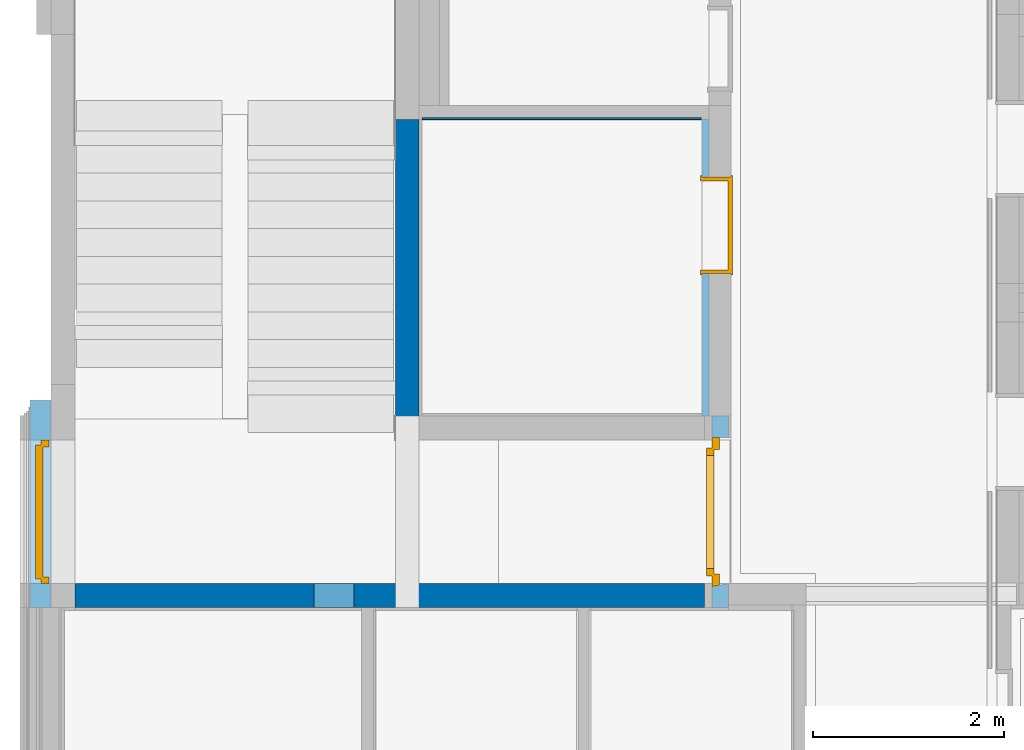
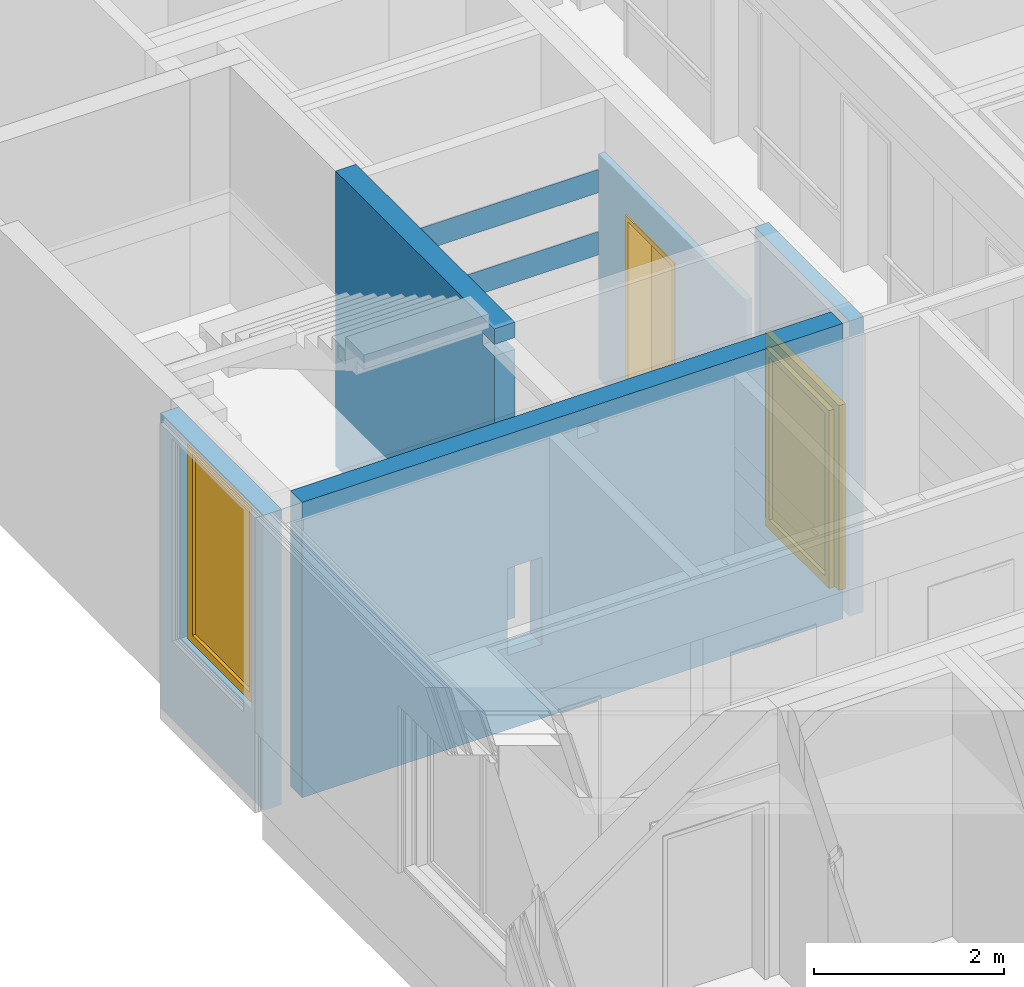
# One storey, part 75 of 207: 4 walls, 3 doors, 5 openings, plus 3 elements that do not belong to this part.
"""IFC4 building model written with IfcOpenShell, lengths in metres."""

from ifc_helpers import new_model, entity, si_unit, converted_unit, derived_unit, frame, frame_2d, origin, origin_with_axes, place, context, subcontext, project, spatial, polyline, rectangle, outline, extrude, closed_shell, open_shell, faceted_brep, surface_model, source, transform, mapped, material, type_object, element, fill, save


model = new_model("IFC4")

# Units and contexts
model_context = context("Model", 3, precision=1e-05, world=origin())
body_context = subcontext(model_context, "Body", "Model", "MODEL_VIEW")
ifc_project = project(units=[si_unit("LENGTHUNIT", "METRE"), si_unit("AREAUNIT", "SQUARE_METRE"), si_unit("VOLUMEUNIT", "CUBIC_METRE"), si_unit("MASSUNIT", "GRAM", prefix="KILO"), converted_unit("PLANEANGLEUNIT", "DEGREE", entity("IfcPlaneAngleMeasure", 0.0174532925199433), si_unit("PLANEANGLEUNIT", "RADIAN"), dimensions=[0, 0, 0, 0, 0, 0, 0]), derived_unit("THERMALTRANSMITTANCEUNIT", [(si_unit("POWERUNIT", "WATT"), 1), (si_unit("THERMODYNAMICTEMPERATUREUNIT", "KELVIN"), -1), (si_unit("LENGTHUNIT", "METRE"), -2)]), derived_unit("VOLUMETRICFLOWRATEUNIT", [(si_unit("LENGTHUNIT", "METRE"), 3), (converted_unit("TIMEUNIT", "hour", entity("IfcTimeMeasure", 3600.0), si_unit("TIMEUNIT", "SECOND"), dimensions=[0, 0, 1, 0, 0, 0, 0]), -1), (si_unit("LENGTHUNIT", "METRE"), -1)])], contexts=[model_context])

# Site, building, storey
site_placement = place(None, origin())
site = spatial("IfcSite", under=ifc_project, at=site_placement, Name="Psychiatrie Neubau Wunstorf", CompositionType="ELEMENT")
building_placement = place(site_placement, origin())
building = spatial("IfcBuilding", under=site, at=building_placement, Name="Neubau H2 Stationsgebäude", CompositionType="ELEMENT")
storey_placement = place(building_placement, frame((0.0, 0.0, -0.2)))
storey = spatial("IfcBuildingStorey", under=building, at=storey_placement, Name="H2 Ebene 0", CompositionType="ELEMENT", Elevation=-0.2)

# Wall, opening, door
ifc_material_1 = material(Name="WA-DL")
wall_1_placement = place(storey_placement, frame((0.0299999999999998, 9.62499989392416, 0.0), z_axis=(0.0, 0.0, 1.0), x_axis=(0.0, 1.0, 0.0)))
wall_1 = element("IfcWall", 1, at=wall_1_placement, inside=storey, material=ifc_material_1, context=body_context, shape_type="SweptSolid", body=[
    extrude(rectangle(XDim=2.17124634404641, YDim=0.22, at=frame_2d((1.0856231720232, 0.11), x_axis=(1.0, 0.0))), origin_with_axes(), (0.0, 0.0, 1.0), 3.8),
])
opening_1_placement = place(wall_1_placement, frame((1.75, 0.22, 1.155), z_axis=(0.0, -1.0, 0.0), x_axis=(0.0, 0.0, 1.0)))
opening_1 = element("IfcOpeningElement", 2, at=opening_1_placement, cuts=wall_1, Name="Türöffnung", ObjectType="Opening", context=body_context, shape_type="SweptSolid", body=[
    extrude(outline(polyline([(2.6, 1.5000257), (2.6, 0.0), (0.0, 0.0), (0.0, 1.5000257), (2.6, 1.5000257)])), origin_with_axes(), (0.0, 0.0, 1.0), 0.22),
])
ifc_material_2 = material(Name="TA-1F-AG-D")
door_type_1 = type_object("IfcDoorType", Name="SMT", OperationType="SINGLE_SWING_RIGHT", ParameterTakesPrecedence=False, PredefinedType="DOOR")
shared_shape_1 = source(origin_with_axes(), body_context, "Body", "SurfaceModel", [
    surface_model("IfcShellBasedSurfaceModel", [(0.0, 0.0799999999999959, 2.6), (0.0, 0.0799999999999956, 0.01), (0.0699999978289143, 0.0799999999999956, 0.01), (0.0699999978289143, 0.0799999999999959, 2.6), (0.0, 0.0, 0.01), (0.0, 0.0, 2.6), (0.0699999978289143, 0.0, 2.6), (0.0699999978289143, 0.0, 0.01)], [closed_shell([[[0, 1, 2, 3]], [[4, 5, 6, 7]], [[1, 0, 5, 4]], [[2, 1, 4, 7]], [[3, 2, 7, 6]], [[0, 3, 6, 5]]], orient=[[False], [False], [False], [False], [False], [False]])]),
    surface_model("IfcShellBasedSurfaceModel", [(1.43002570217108, 0.0799999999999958, 2.6), (1.43002570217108, 0.0799999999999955, 0.01), (1.5000257, 0.0799999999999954, 0.01), (1.5000257, 0.0799999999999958, 2.6), (1.43002570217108, 0.0, 0.01), (1.43002570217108, 0.0, 2.6), (1.5000257, 0.0, 2.6), (1.5000257, 0.0, 0.01)], [closed_shell([[[0, 1, 2, 3]], [[4, 5, 6, 7]], [[1, 0, 5, 4]], [[2, 1, 4, 7]], [[3, 2, 7, 6]], [[0, 3, 6, 5]]], orient=[[False], [False], [False], [False], [False], [False]])]),
    surface_model("IfcShellBasedSurfaceModel", [(0.0699999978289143, 0.0799999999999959, 2.6), (0.0699999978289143, 0.0799999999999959, 2.53), (1.43002570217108, 0.0799999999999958, 2.53), (1.43002570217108, 0.0799999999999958, 2.6), (0.0699999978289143, 0.0, 2.53), (0.0699999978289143, 0.0, 2.6), (1.43002570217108, 0.0, 2.6), (1.43002570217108, 0.0, 2.53)], [closed_shell([[[0, 1, 2, 3]], [[4, 5, 6, 7]], [[1, 0, 5, 4]], [[2, 1, 4, 7]], [[3, 2, 7, 6]], [[0, 3, 6, 5]]], orient=[[False], [False], [False], [False], [False], [False]])]),
    surface_model("IfcShellBasedSurfaceModel", [(0.0499999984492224, 0.14, 2.55), (0.0499999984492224, 0.14, -0.01), (0.149999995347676, 0.14, -0.01), (0.149999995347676, 0.14, 2.55), (0.0499999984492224, 0.0599999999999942, -0.01), (0.0499999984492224, 0.0599999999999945, 2.55), (0.149999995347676, 0.0599999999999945, 2.55), (0.149999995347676, 0.0599999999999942, -0.01)], [closed_shell([[[0, 1, 2, 3]], [[4, 5, 6, 7]], [[1, 0, 5, 4]], [[2, 1, 4, 7]], [[3, 2, 7, 6]], [[0, 3, 6, 5]]], orient=[[False], [False], [False], [False], [False], [False]])]),
    surface_model("IfcShellBasedSurfaceModel", [(1.35002570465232, 0.14, 2.55), (1.35002570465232, 0.14, -0.01), (1.45002570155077, 0.14, -0.01), (1.45002570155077, 0.14, 2.55), (1.35002570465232, 0.059999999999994, -0.01), (1.35002570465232, 0.0599999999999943, 2.55), (1.45002570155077, 0.0599999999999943, 2.55), (1.45002570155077, 0.059999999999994, -0.01)], [closed_shell([[[0, 1, 2, 3]], [[4, 5, 6, 7]], [[1, 0, 5, 4]], [[2, 1, 4, 7]], [[3, 2, 7, 6]], [[0, 3, 6, 5]]], orient=[[False], [False], [False], [False], [False], [False]])]),
    surface_model("IfcShellBasedSurfaceModel", [(0.149999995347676, 0.14, 0.11), (0.149999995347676, 0.14, -0.01), (1.35002570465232, 0.14, -0.01), (1.35002570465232, 0.14, 0.11), (0.149999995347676, 0.0599999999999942, -0.01), (0.149999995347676, 0.0599999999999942, 0.11), (1.35002570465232, 0.0599999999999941, 0.11), (1.35002570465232, 0.059999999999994, -0.01)], [closed_shell([[[0, 1, 2, 3]], [[4, 5, 6, 7]], [[1, 0, 5, 4]], [[2, 1, 4, 7]], [[3, 2, 7, 6]], [[0, 3, 6, 5]]], orient=[[False], [False], [False], [False], [False], [False]])]),
    surface_model("IfcShellBasedSurfaceModel", [(0.149999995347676, 0.14, 2.55), (0.149999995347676, 0.14, 2.45), (1.35002570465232, 0.14, 2.45), (1.35002570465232, 0.14, 2.55), (0.149999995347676, 0.0599999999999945, 2.45), (0.149999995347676, 0.0599999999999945, 2.55), (1.35002570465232, 0.0599999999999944, 2.55), (1.35002570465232, 0.0599999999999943, 2.45)], [closed_shell([[[0, 1, 2, 3]], [[4, 5, 6, 7]], [[1, 0, 5, 4]], [[2, 1, 4, 7]], [[3, 2, 7, 6]], [[0, 3, 6, 5]]], orient=[[False], [False], [False], [False], [False], [False]])]),
    surface_model("IfcShellBasedSurfaceModel", [(0.149999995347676, 0.0999999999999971, 0.11), (1.35002570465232, 0.0999999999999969, 0.11), (1.35002570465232, 0.0999999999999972, 2.45), (0.149999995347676, 0.0999999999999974, 2.45)], [open_shell([[[0, 1, 2, 3]]], orient=[[False]])]),
])
door_1_placement = place(opening_1_placement, frame((0.0, 1.5000257, 0.198), z_axis=(1.0, 0.0, 0.0), x_axis=(0.0, -1.0, 0.0)))
door_1 = element("IfcDoor", 3, at=door_1_placement, inside=storey, type_object=door_type_1, material=ifc_material_2, Name="SMT", OverallHeight=2.6, OverallWidth=1.50003, context=body_context, shape_type="MappedRepresentation", body=[
    mapped(shared_shape_1, transform((0.0, 0.0, 0.0), x_axis=(1.0, 0.0, 0.0), y_axis=(0.0, 1.0, 0.0), z_axis=(0.0, 0.0, 1.0), scale=1.0)),
])
fill(opening_1, door_1)

# Walls
for number, where, name in (
    (4, (3.90999963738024, 14.7250132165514, 2.4), "WV 1.1"),
    (5, (3.90999963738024, 14.7250132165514, 1.6), "WV 1.1"),
):
    element("IfcWall", number, at=place(storey_placement, frame(where)), inside=storey, Name=name, context=body_context, shape_type="Brep", body=[
        faceted_brep([(0.0, 0.018, 0.0), (0.0, 0.0, 0.0), (2.92, 0.0, 0.0), (2.92, 0.018, 0.0), (0.0, 0.0, 0.3), (0.0, 0.018, 0.3), (2.92, 0.018, 0.3), (2.92, 0.0, 0.3)], [[[0, 1, 2, 3]], [[4, 5, 6, 7]], [[1, 0, 5, 4]], [[2, 1, 4, 7]], [[3, 2, 7, 6]], [[0, 3, 6, 5]]], orient=[[False], [False], [False], [False], [False], [False]]),
    ])

# Wall, openings, door
ifc_material_3 = material(Name="WI-STB")
wall_2_placement = place(storey_placement, frame((6.94099914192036, 11.6249877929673, 0.0), z_axis=(0.0, 0.0, 1.0), x_axis=(0.0, -1.0, 0.0)))
wall_2 = element("IfcWall", 6, at=wall_2_placement, inside=storey, material=ifc_material_3, context=body_context, shape_type="SweptSolid", body=[
    extrude(outline(polyline([(-1.99998789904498, 0.0), (0.0, 0.0), (0.0, 0.16999981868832), (-0.250000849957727, 0.170010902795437), (-1.99998789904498, 0.169999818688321), (-1.99998789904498, 0.0)])), frame((1.99998789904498, 0.0, 0.0), z_axis=(0.0, 0.0, 1.0), x_axis=(1.0, 0.0, 0.0)), (0.0, 0.0, 1.0), 3.8),
])
opening_2_placement = place(wall_2_placement, frame((1.74998704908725, 0.200010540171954, 0.0), z_axis=(7.2445759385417e-06, -0.999999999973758, 0.0), x_axis=(0.0, 0.0, 1.0)))
element("IfcOpeningElement", 7, at=opening_2_placement, cuts=wall_2, Name="Türöffnung", ObjectType="Opening", context=body_context, shape_type="SweptSolid", body=[
    extrude(outline(polyline([(2.58, 1.5299870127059), (2.58, 0.0), (0.0, 0.0), (0.0, 1.5299870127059), (2.58, 1.5299870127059)])), origin_with_axes(), (0.0, 0.0, 1.0), 0.0299996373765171),
])
opening_3_placement = place(wall_2_placement, frame((1.74998704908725, 0.170010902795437, 0.0), z_axis=(0.0, 0.0, 1.0), x_axis=(-0.999999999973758, -7.24457594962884e-06, 0.0)))
opening_3 = element("IfcOpeningElement", 8, at=opening_3_placement, cuts=wall_2, Name="Türöffnung", ObjectType="Opening", context=body_context, shape_type="SweptSolid", body=[
    extrude(outline(polyline([(0.0, 0.0), (1.5299870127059, 0.0), (1.5299882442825, 0.16999981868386), (-0.0300117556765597, 0.170011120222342), (0.0, 0.0)])), origin_with_axes(), (0.0, 0.0, 1.0), 2.58),
])
ifc_material_4 = material(Name="TI-1F-AG-D-O")
door_type_2 = type_object("IfcDoorType", Name="SMT", OperationType="SINGLE_SWING_RIGHT", ParameterTakesPrecedence=False, PredefinedType="DOOR")
shared_shape_2 = source(origin_with_axes(), body_context, "Body", "SurfaceModel", [
    surface_model("IfcShellBasedSurfaceModel", [(1.52999315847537, 0.0799894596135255, 2.58), (1.47999315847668, 0.0799898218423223, 2.58), (1.47999315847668, 0.0799898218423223, 0.2), (1.52999315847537, 0.0799894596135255, 0.2), (1.52999257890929, -1.0540384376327e-05, 0.2), (1.47999257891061, -1.01781555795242e-05, 0.2), (1.47999257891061, -1.01781555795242e-05, 2.58), (1.52999257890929, -1.0540384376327e-05, 2.58)], [closed_shell([[[0, 1, 2, 3]], [[4, 5, 6, 7]], [[3, 4, 7, 0]], [[2, 5, 4, 3]], [[1, 6, 5, 2]], [[0, 7, 6, 1]]], orient=[[False], [False], [False], [False], [False], [False]])]),
    surface_model("IfcShellBasedSurfaceModel", [(0.019993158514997, 0.08000039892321, 2.58), (-0.0300068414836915, 0.0800007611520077, 2.58), (-0.0300068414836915, 0.0800007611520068, 0.2), (0.019993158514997, 0.0800003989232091, 0.2), (0.0199925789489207, 3.98925307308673e-07, 0.2), (-0.0300074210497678, 7.61154105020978e-07, 0.2), (-0.0300074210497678, 7.61154105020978e-07, 2.58), (0.0199925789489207, 3.98925307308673e-07, 2.58)], [closed_shell([[[0, 1, 2, 3]], [[4, 5, 6, 7]], [[3, 4, 7, 0]], [[2, 5, 4, 3]], [[1, 6, 5, 2]], [[0, 7, 6, 1]]], orient=[[False], [False], [False], [False], [False], [False]])]),
    surface_model("IfcShellBasedSurfaceModel", [(1.47999315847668, 0.0799898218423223, 2.58), (0.019993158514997, 0.08000039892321, 2.58), (0.019993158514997, 0.08000039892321, 2.53), (1.47999315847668, 0.0799898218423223, 2.53), (1.47999257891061, -1.01781555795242e-05, 2.53), (0.0199925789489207, 3.98925307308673e-07, 2.53), (0.0199925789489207, 3.98925307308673e-07, 2.58), (1.47999257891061, -1.01781555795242e-05, 2.58)], [closed_shell([[[0, 1, 2, 3]], [[4, 5, 6, 7]], [[3, 4, 7, 0]], [[2, 5, 4, 3]], [[1, 6, 5, 2]], [[0, 7, 6, 1]]], orient=[[False], [False], [False], [False], [False], [False]])]),
    surface_model("IfcShellBasedSurfaceModel", [(1.47999315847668, 0.0799898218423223, 2.53), (1.39999315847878, 0.0799904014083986, 2.53), (1.39999315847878, 0.0799904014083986, 0.2), (1.47999315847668, 0.0799898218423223, 0.2), (1.47999257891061, -1.01781555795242e-05, 0.2), (1.39999257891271, -9.59858950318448e-06, 0.2), (1.39999257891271, -9.59858950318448e-06, 2.53), (1.47999257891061, -1.01781555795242e-05, 2.53)], [closed_shell([[[0, 1, 2, 3]], [[4, 5, 6, 7]], [[3, 4, 7, 0]], [[2, 5, 4, 3]], [[1, 6, 5, 2]], [[0, 7, 6, 1]]], orient=[[False], [False], [False], [False], [False], [False]])]),
    surface_model("IfcShellBasedSurfaceModel", [(0.0999931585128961, 0.0799998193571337, 2.53), (0.019993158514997, 0.08000039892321, 2.53), (0.019993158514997, 0.0800003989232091, 0.2), (0.0999931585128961, 0.0799998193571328, 0.2), (0.0999925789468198, -1.80640769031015e-07, 0.2), (0.0199925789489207, 3.98925307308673e-07, 0.2), (0.0199925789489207, 3.98925307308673e-07, 2.53), (0.0999925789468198, -1.80640769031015e-07, 2.53)], [closed_shell([[[0, 1, 2, 3]], [[4, 5, 6, 7]], [[3, 4, 7, 0]], [[2, 5, 4, 3]], [[1, 6, 5, 2]], [[0, 7, 6, 1]]], orient=[[False], [False], [False], [False], [False], [False]])]),
    surface_model("IfcShellBasedSurfaceModel", [(1.39999315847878, 0.0799904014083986, 2.53), (0.0999931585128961, 0.0799998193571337, 2.53), (0.0999931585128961, 0.0799998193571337, 2.45), (1.39999315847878, 0.0799904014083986, 2.45), (1.39999257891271, -9.59858950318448e-06, 2.45), (0.0999925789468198, -1.80640769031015e-07, 2.45), (0.0999925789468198, -1.80640769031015e-07, 2.53), (1.39999257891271, -9.59858950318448e-06, 2.53)], [closed_shell([[[0, 1, 2, 3]], [[4, 5, 6, 7]], [[3, 4, 7, 0]], [[2, 5, 4, 3]], [[1, 6, 5, 2]], [[0, 7, 6, 1]]], orient=[[False], [False], [False], [False], [False], [False]])]),
    surface_model("IfcShellBasedSurfaceModel", [(1.41999359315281, 0.139990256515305, 2.47), (1.33999359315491, 0.139990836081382, 2.47), (1.33999359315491, 0.139990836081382, 0.18), (1.41999359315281, 0.139990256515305, 0.18), (1.41999301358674, 0.0599902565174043, 0.18), (1.33999301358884, 0.0599908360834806, 0.18), (1.33999301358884, 0.0599908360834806, 2.47), (1.41999301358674, 0.0599902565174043, 2.47)], [closed_shell([[[0, 1, 2, 3]], [[4, 5, 6, 7]], [[3, 4, 7, 0]], [[2, 5, 4, 3]], [[1, 6, 5, 2]], [[0, 7, 6, 1]]], orient=[[False], [False], [False], [False], [False], [False]])]),
    surface_model("IfcShellBasedSurfaceModel", [(0.15999359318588, 0.139999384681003, 2.47), (0.0799935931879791, 0.139999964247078, 2.47), (0.0799935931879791, 0.139999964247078, 0.18), (0.15999359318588, 0.139999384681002, 0.18), (0.159993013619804, 0.0599993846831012, 0.18), (0.0799930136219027, 0.0599999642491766, 0.18), (0.0799930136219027, 0.0599999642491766, 2.47), (0.159993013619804, 0.0599993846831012, 2.47)], [closed_shell([[[0, 1, 2, 3]], [[4, 5, 6, 7]], [[3, 4, 7, 0]], [[2, 5, 4, 3]], [[1, 6, 5, 2]], [[0, 7, 6, 1]]], orient=[[False], [False], [False], [False], [False], [False]])]),
    surface_model("IfcShellBasedSurfaceModel", [(1.33999359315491, 0.139990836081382, 0.3), (0.15999359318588, 0.139999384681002, 0.3), (0.15999359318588, 0.139999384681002, 0.18), (1.33999359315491, 0.139990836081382, 0.18), (1.33999301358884, 0.0599908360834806, 0.18), (0.159993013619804, 0.0599993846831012, 0.18), (0.159993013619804, 0.0599993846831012, 0.3), (1.33999301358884, 0.0599908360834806, 0.3)], [closed_shell([[[0, 1, 2, 3]], [[4, 5, 6, 7]], [[3, 4, 7, 0]], [[2, 5, 4, 3]], [[1, 6, 5, 2]], [[0, 7, 6, 1]]], orient=[[False], [False], [False], [False], [False], [False]])]),
    surface_model("IfcShellBasedSurfaceModel", [(1.33999359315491, 0.139990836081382, 2.47), (0.15999359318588, 0.139999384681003, 2.47), (0.15999359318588, 0.139999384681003, 2.39), (1.33999359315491, 0.139990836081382, 2.39), (1.33999301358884, 0.0599908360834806, 2.39), (0.159993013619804, 0.0599993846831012, 2.39), (0.159993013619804, 0.0599993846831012, 2.47), (1.33999301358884, 0.0599908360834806, 2.47)], [closed_shell([[[0, 1, 2, 3]], [[4, 5, 6, 7]], [[3, 4, 7, 0]], [[2, 5, 4, 3]], [[1, 6, 5, 2]], [[0, 7, 6, 1]]], orient=[[False], [False], [False], [False], [False], [False]])]),
    surface_model("IfcShellBasedSurfaceModel", [(1.33999330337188, 0.0999908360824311, 0.3), (1.33999330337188, 0.0999908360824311, 2.39), (0.159993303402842, 0.0999993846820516, 2.39), (0.159993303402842, 0.0999993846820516, 0.3)], [open_shell([[[0, 1, 2, 3]]], orient=[[False]])]),
])
door_2_placement = place(opening_3_placement, frame((-4.91418893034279e-06, 0.0900109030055, 0.0)))
door_2 = element("IfcDoor", 9, at=door_2_placement, inside=storey, type_object=door_type_2, material=ifc_material_4, Name="SMT", OverallHeight=2.58, OverallWidth=1.56, context=body_context, shape_type="MappedRepresentation", body=[
    mapped(shared_shape_2, transform((0.0, 0.0, 0.0), x_axis=(1.0, 0.0, 0.0), y_axis=(0.0, 1.0, 0.0), z_axis=(0.0, 0.0, 1.0), scale=1.0)),
])
fill(opening_3, door_2)

# Wall, opening
ifc_material_5 = material(Name="WI-STB")
wall_3_placement = place(storey_placement, frame((0.28, 9.62499989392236, 0.0)))
wall_3 = element("IfcWall", 10, at=wall_3_placement, inside=storey, material=ifc_material_5, context=body_context, shape_type="Brep", body=[
    faceted_brep([(3.35, 0.0, 3.45), (3.35, 0.25, 3.45), (3.6, 0.25, 3.45), (3.6, 0.0, 3.45), (3.6, 0.0, 3.6), (3.6, 0.25, 3.6), (3.35, 0.25, 3.6), (3.35, 0.0, 3.6), (6.58099877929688, 0.0, 0.0), (0.0, 0.0, 0.0), (0.0, 0.0, 3.8), (6.58099877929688, 0.0, 3.8), (0.0, 0.25, 0.0), (0.0, 0.25, 3.8), (6.58099877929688, 0.25, 0.0), (6.58099877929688, 0.25, 3.8)], [[[0, 1, 2, 3]], [[4, 5, 6, 7]], [[4, 3, 2, 5]], [[6, 1, 0, 7]], [[8, 9, 10, 11], [3, 4, 7, 0]], [[9, 12, 13, 10]], [[12, 14, 15, 13], [1, 6, 5, 2]], [[14, 8, 11, 15]], [[15, 11, 10, 13]], [[8, 14, 12, 9]]], orient=[[False], [False], [False], [False], [False, False], [False], [False, False], [False], [False], [False]]),
])
opening_4_placement = place(wall_3_placement, frame((2.92, 0.25, 0.955), z_axis=(0.0, -1.0, 0.0), x_axis=(0.0, 0.0, 1.0)))
element("IfcOpeningElement", 11, at=opening_4_placement, cuts=wall_3, Name="Wandnische", ObjectType="Opening", context=body_context, shape_type="SweptSolid", body=[
    extrude(outline(polyline([(1.12, 0.419999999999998), (1.12, 0.0), (0.0, 0.0), (0.0, 0.419999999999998), (1.12, 0.419999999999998)])), origin_with_axes(), (0.0, 0.0, 1.0), 0.25),
])

# Wall, opening, door
ifc_material_6 = material(Name="WI-LB")
wall_4_placement = place(storey_placement, frame((6.83399877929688, 14.7250132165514, 0.0), z_axis=(0.0, 0.0, 1.0), x_axis=(0.0, -1.0, 0.0)))
wall_4 = element("IfcWall", 12, at=wall_4_placement, inside=storey, material=ifc_material_6, context=body_context, shape_type="SweptSolid", body=[
    extrude(rectangle(XDim=3.10002542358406, YDim=0.075, at=frame_2d((1.55001271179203, 0.0375), x_axis=(1.0, 0.0))), origin_with_axes(), (0.0, 0.0, 1.0), 2.9),
])
opening_5_placement = place(wall_4_placement, frame((1.61001332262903, 0.075, 0.0), z_axis=(0.0, -1.0, 0.0), x_axis=(0.0, 0.0, 1.0)))
opening_5 = element("IfcOpeningElement", 13, at=opening_5_placement, cuts=wall_4, Name="Türöffnung", ObjectType="Opening", context=body_context, shape_type="SweptSolid", body=[
    extrude(outline(polyline([(2.46, 1.01), (2.46, 0.0), (0.0, 0.0), (0.0, 1.01), (2.46, 1.01)])), origin_with_axes(), (0.0, 0.0, 1.0), 0.075),
])
ifc_material_7 = material(Name="TI-1F-UZ-ZK")
door_type_3 = type_object("IfcDoorType", Name="SMT", OperationType="SINGLE_SWING_RIGHT", ParameterTakesPrecedence=False, PredefinedType="DOOR")
shared_shape_3 = source(origin_with_axes(), body_context, "Body", "Brep", [
    faceted_brep([(0.0, -0.0150000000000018, 2.46), (0.0400000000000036, -0.0150000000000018, 2.46), (0.0400000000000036, -0.0150000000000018, 0.2), (0.0, -0.0150000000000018, 0.2), (0.0, 0.321999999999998, 0.2), (0.0400000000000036, 0.321999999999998, 0.2), (0.0400000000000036, 0.321999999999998, 2.46), (0.0, 0.321999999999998, 2.46)], [[[0, 1, 2, 3]], [[4, 5, 6, 7]], [[3, 4, 7, 0]], [[2, 5, 4, 3]], [[1, 6, 5, 2]], [[0, 7, 6, 1]]], orient=[[False], [False], [False], [False], [False], [False]]),
    faceted_brep([(0.0, -0.0150000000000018, 2.475), (0.0, -0.0150000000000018, 0.2), (-0.0149999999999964, -0.0150000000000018, 0.2), (-0.0149999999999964, -0.0150000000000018, 2.475), (0.0, 0.0, 0.2), (0.0, 0.0, 2.475), (-0.0149999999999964, 0.0, 2.475), (-0.0149999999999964, 0.0, 0.2)], [[[0, 1, 2, 3]], [[4, 5, 6, 7]], [[1, 0, 5, 4]], [[2, 1, 4, 7]], [[3, 2, 7, 6]], [[0, 3, 6, 5]]], orient=[[False], [False], [False], [False], [False], [False]]),
    faceted_brep([(0.0, 0.306999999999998, 2.475), (0.0, 0.306999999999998, 0.2), (-0.0149999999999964, 0.306999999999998, 0.2), (-0.0149999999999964, 0.306999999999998, 2.475), (0.0, 0.321999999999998, 0.2), (0.0, 0.321999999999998, 2.475), (-0.0149999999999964, 0.321999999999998, 2.475), (-0.0149999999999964, 0.321999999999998, 0.2)], [[[0, 1, 2, 3]], [[4, 5, 6, 7]], [[1, 0, 5, 4]], [[2, 1, 4, 7]], [[3, 2, 7, 6]], [[0, 3, 6, 5]]], orient=[[False], [False], [False], [False], [False], [False]]),
    faceted_brep([(0.970000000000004, -0.0150000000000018, 2.46), (1.01, -0.0150000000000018, 2.46), (1.01, -0.0150000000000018, 0.2), (0.970000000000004, -0.0150000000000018, 0.2), (0.970000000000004, 0.321999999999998, 0.2), (1.01, 0.321999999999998, 0.2), (1.01, 0.321999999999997, 2.46), (0.970000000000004, 0.321999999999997, 2.46)], [[[0, 1, 2, 3]], [[4, 5, 6, 7]], [[3, 4, 7, 0]], [[2, 5, 4, 3]], [[1, 6, 5, 2]], [[0, 7, 6, 1]]], orient=[[False], [False], [False], [False], [False], [False]]),
    faceted_brep([(1.01, -0.0150000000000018, 2.475), (1.025, -0.0150000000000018, 2.475), (1.025, -0.0150000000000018, 0.2), (1.01, -0.0150000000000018, 0.2), (1.01, 0.0, 0.2), (1.025, 0.0, 0.2), (1.025, 0.0, 2.475), (1.01, 0.0, 2.475)], [[[0, 1, 2, 3]], [[4, 5, 6, 7]], [[3, 4, 7, 0]], [[2, 5, 4, 3]], [[1, 6, 5, 2]], [[0, 7, 6, 1]]], orient=[[False], [False], [False], [False], [False], [False]]),
    faceted_brep([(1.01, 0.306999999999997, 2.475), (1.025, 0.306999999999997, 2.475), (1.025, 0.306999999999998, 0.2), (1.01, 0.306999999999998, 0.2), (1.01, 0.321999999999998, 0.2), (1.025, 0.321999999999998, 0.2), (1.025, 0.321999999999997, 2.475), (1.01, 0.321999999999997, 2.475)], [[[0, 1, 2, 3]], [[4, 5, 6, 7]], [[3, 4, 7, 0]], [[2, 5, 4, 3]], [[1, 6, 5, 2]], [[0, 7, 6, 1]]], orient=[[False], [False], [False], [False], [False], [False]]),
    faceted_brep([(0.0400000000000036, -0.0150000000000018, 2.46), (0.970000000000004, -0.0150000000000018, 2.46), (0.970000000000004, -0.0150000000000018, 2.42), (0.0400000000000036, -0.0150000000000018, 2.42), (0.0400000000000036, 0.321999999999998, 2.42), (0.970000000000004, 0.321999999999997, 2.42), (0.970000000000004, 0.321999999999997, 2.46), (0.0400000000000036, 0.321999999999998, 2.46)], [[[0, 1, 2, 3]], [[4, 5, 6, 7]], [[3, 4, 7, 0]], [[2, 5, 4, 3]], [[1, 6, 5, 2]], [[0, 7, 6, 1]]], orient=[[False], [False], [False], [False], [False], [False]]),
    faceted_brep([(0.0, -0.0150000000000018, 2.475), (1.01, -0.0150000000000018, 2.475), (1.01, -0.0150000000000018, 2.46), (0.0, -0.0150000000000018, 2.46), (0.0, 0.0, 2.46), (1.01, 0.0, 2.46), (1.01, 0.0, 2.475), (0.0, 0.0, 2.475)], [[[0, 1, 2, 3]], [[4, 5, 6, 7]], [[3, 4, 7, 0]], [[2, 5, 4, 3]], [[1, 6, 5, 2]], [[0, 7, 6, 1]]], orient=[[False], [False], [False], [False], [False], [False]]),
    faceted_brep([(0.0, 0.306999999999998, 2.475), (1.01, 0.306999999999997, 2.475), (1.01, 0.306999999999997, 2.46), (0.0, 0.306999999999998, 2.46), (0.0, 0.321999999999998, 2.46), (1.01, 0.321999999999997, 2.46), (1.01, 0.321999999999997, 2.475), (0.0, 0.321999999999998, 2.475)], [[[0, 1, 2, 3]], [[4, 5, 6, 7]], [[3, 4, 7, 0]], [[2, 5, 4, 3]], [[1, 6, 5, 2]], [[0, 7, 6, 1]]], orient=[[False], [False], [False], [False], [False], [False]]),
    faceted_brep([(0.0250000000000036, 0.272999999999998, 2.435), (0.985000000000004, 0.272999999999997, 2.435), (0.985000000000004, 0.272999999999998, 0.2), (0.0250000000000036, 0.272999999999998, 0.2), (0.0250000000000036, 0.322999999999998, 0.2), (0.985000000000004, 0.322999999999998, 0.2), (0.985000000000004, 0.322999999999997, 2.435), (0.0250000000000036, 0.322999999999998, 2.435)], [[[0, 1, 2, 3]], [[4, 5, 6, 7]], [[3, 4, 7, 0]], [[2, 5, 4, 3]], [[1, 6, 5, 2]], [[0, 7, 6, 1]]], orient=[[False], [False], [False], [False], [False], [False]]),
])
door_3_placement = place(opening_5_placement, frame((0.0, 1.01, 0.075), z_axis=(1.0, 0.0, 0.0), x_axis=(0.0, -1.0, 0.0)))
door_3 = element("IfcDoor", 14, at=door_3_placement, inside=storey, type_object=door_type_3, material=ifc_material_7, Name="SMT", OverallHeight=2.46, OverallWidth=1.01, context=body_context, shape_type="MappedRepresentation", body=[
    mapped(shared_shape_3, transform((0.0, 0.0, 0.0), x_axis=(1.0, 0.0, 0.0), y_axis=(0.0, 1.0, 0.0), z_axis=(0.0, 0.0, 1.0), scale=1.0)),
])
fill(opening_5, door_3)

# Wall
ifc_material_8 = material(Name="WI-STB")
wall_5_placement = place(storey_placement, frame((3.63, 11.3749998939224, 0.0)))
element("IfcWall", 15, at=wall_5_placement, inside=storey, material=ifc_material_8, context=body_context, shape_type="Brep", body=[
    faceted_brep([(0.25, 0.25, 3.6), (0.25, 0.25, 3.45), (0.0, 0.25, 3.45), (0.0, 0.25, 3.6), (0.25, 0.0, 3.6), (0.0, 0.0, 3.6), (0.0, 0.0, 3.45), (0.25, 0.0, 3.45), (0.0, 0.0, 3.8), (0.25, 0.0, 3.8), (0.25, 3.35001332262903, 3.8), (0.25, 3.35001332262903, 0.0), (0.25, 0.0, 0.0), (0.0, 0.0, 0.0), (0.0, 3.35001332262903, 0.0), (0.0, 3.35001332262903, 3.8)], [[[0, 1, 2, 3]], [[4, 0, 3, 5]], [[6, 2, 1, 7]], [[5, 8, 9, 4]], [[4, 9, 10, 11, 12, 7, 1, 0]], [[7, 12, 13, 6]], [[3, 2, 6, 13, 14, 15, 8, 5]], [[14, 11, 10, 15]], [[15, 10, 9, 8]], [[11, 14, 13, 12]]], orient=[[False], [False], [False], [False], [False], [False], [False], [False], [False], [False]]),
])

save(model, "model.ifc")
